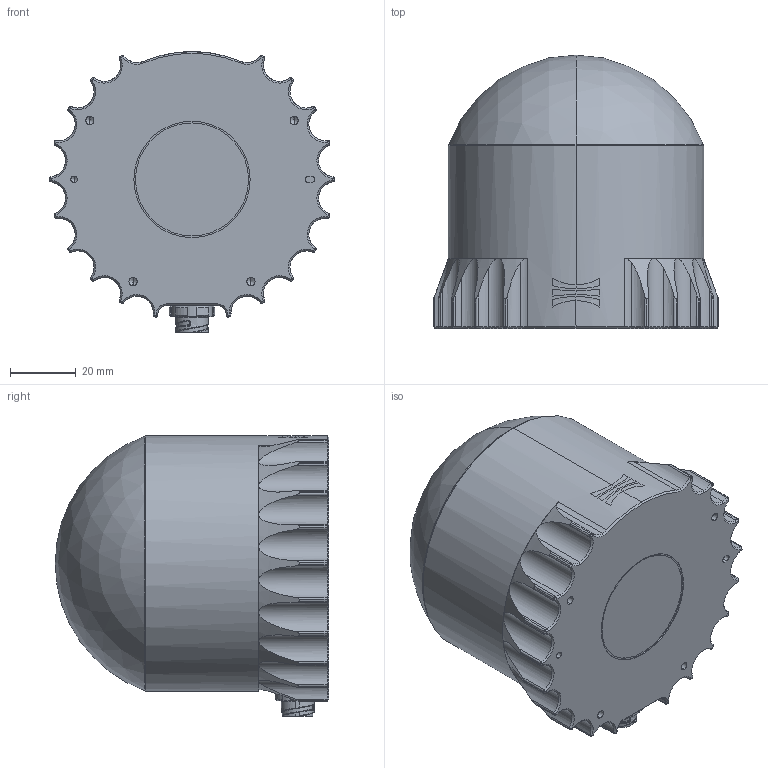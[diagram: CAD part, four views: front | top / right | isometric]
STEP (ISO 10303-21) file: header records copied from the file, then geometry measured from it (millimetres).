
FILE_DESCRIPTION (( 'STEP AP214' ), '1' );
FILE_NAME ('861-OS_Dome_Rev8, Family no baseplate.STEP', '2026-05-01T18:51:56', ( '' ), ( '' ), 'SwSTEP 2.0', 'SolidWorks 2022', '' );
FILE_SCHEMA (( 'AUTOMOTIVE_DESIGN' ));
Length unit declared in the file: millimetre
Products named in the file (1): 861-OS_Dome_Rev8, Family no baseplate
Bounding box: 87 x 83.47 x 85.67 mm (x, y, z)
Volume: 348709 mm3; surface area: 29401.6 mm2
Topology: 1 solids, 1 shells, 1123 faces, 3125 edges, 1946 vertices
Faces by surface type: bspline 815, cone 130, cylinder 128, plane 46, torus 2, sphere 2
Entity records: 73998 total; most frequent: CARTESIAN_POINT 41346, ORIENTED_EDGE 6086, EDGE_CURVE 3043, VERTEX_POINT 1946, B_SPLINE_CURVE_WITH_KNOTS 1864, DIRECTION 1560, EDGE_LOOP 1199, UNCERTAINTY_MEASURE_WITH_UNIT 1126
